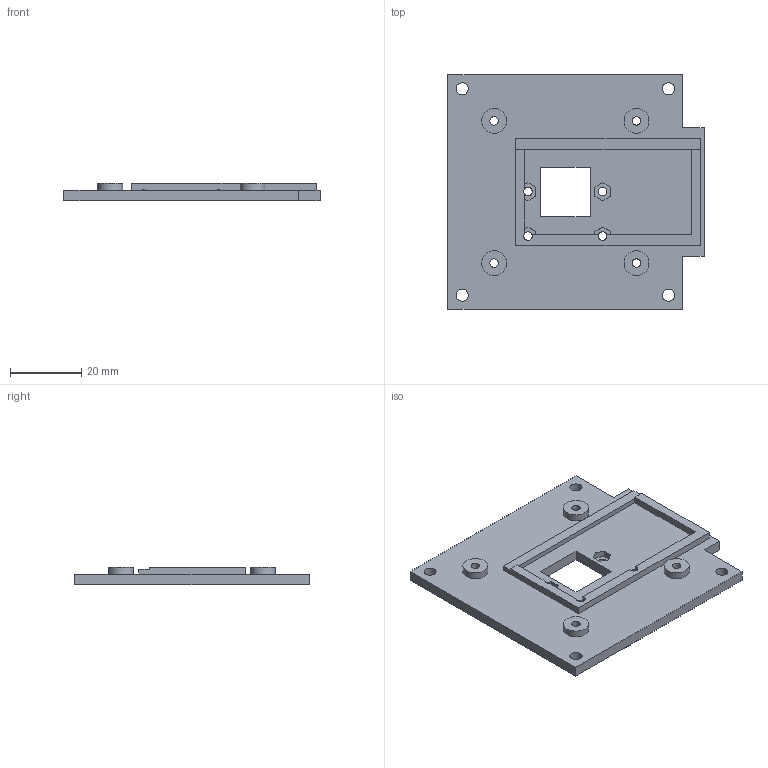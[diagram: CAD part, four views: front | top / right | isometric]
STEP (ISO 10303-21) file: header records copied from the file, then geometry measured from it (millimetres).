
FILE_DESCRIPTION(('Open CASCADE Model'),'2;1');
FILE_NAME('Open CASCADE Shape Model','2026-10-02T07:52:37',('Author'),( 'Open CASCADE'),'Open CASCADE STEP processor 7.8','Open CASCADE 7.8' ,'Unknown');
FILE_SCHEMA(('AUTOMOTIVE_DESIGN { 1 0 10303 214 1 1 1 1 }'));
Length unit declared in the file: millimetre
Products named in the file (1): Open CASCADE STEP translator 7.8 1
Bounding box: 72 x 66 x 5 mm (x, y, z)
Volume: 13858.5 mm3; surface area: 10804.9 mm2
Topology: 1 solids, 1 shells, 83 faces, 223 edges, 148 vertices
Faces by surface type: plane 64, cylinder 19
Full cylindrical faces by diameter (mm): 2.4 x8, 3.4 x4, 7 x4
Entity records: 5460 total; most frequent: CARTESIAN_POINT 1017, DIRECTION 779, LINE 501, VECTOR 501, ORIENTED_EDGE 446, PCURVE 446, DEFINITIONAL_REPRESENTATION 446, EDGE_CURVE 223
